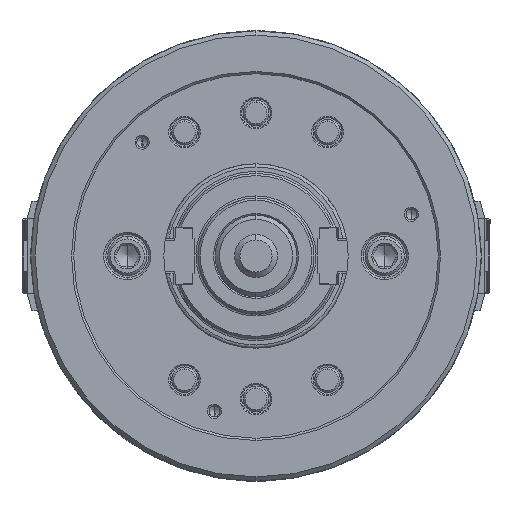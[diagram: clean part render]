
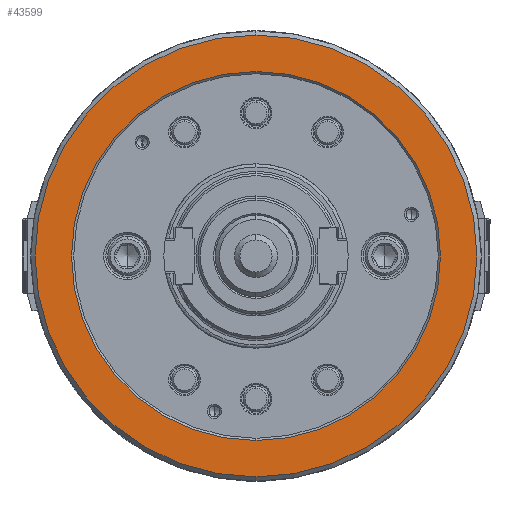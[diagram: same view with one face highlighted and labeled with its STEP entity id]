
A CAD part, left-side view. The second image highlights one B-rep face of the part: STEP entity #43599.
In plain terms, the highlighted planar face has unit normal (-1, 0, 0).
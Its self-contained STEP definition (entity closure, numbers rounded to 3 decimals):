
#551 = DIRECTION ( 'NONE',  ( 1., 0., 0. ) ) ;
#2469 = CARTESIAN_POINT ( 'NONE',  ( -85., 0., 0. ) ) ;
#3327 = CARTESIAN_POINT ( 'NONE',  ( -85., -103., 0. ) ) ;
#3544 = DIRECTION ( 'NONE',  ( 1., 0., 0. ) ) ;
#3784 = FACE_BOUND ( 'NONE', #7798, .T. ) ;
#3997 = DIRECTION ( 'NONE',  ( 0., 0., -1. ) ) ;
#7619 = AXIS2_PLACEMENT_3D ( 'NONE', #3327, #48761, #62284 ) ;
#7798 = EDGE_LOOP ( 'NONE', ( #58613, #61413 ) ) ;
#8707 = CARTESIAN_POINT ( 'NONE',  ( -85., 0., 86. ) ) ;
#11997 = CARTESIAN_POINT ( 'NONE',  ( -85., 0., -86. ) ) ;
#13137 = ORIENTED_EDGE ( 'NONE', *, *, #28904, .F. ) ;
#17274 = AXIS2_PLACEMENT_3D ( 'NONE', #53716, #551, #52775 ) ;
#20754 = CIRCLE ( 'NONE', #53253, 103. ) ;
#21277 = CARTESIAN_POINT ( 'NONE',  ( -85., 0., 103. ) ) ;
#23811 = AXIS2_PLACEMENT_3D ( 'NONE', #2469, #62859, #47403 ) ;
#28904 = EDGE_CURVE ( 'NONE', #91977, #85137, #68573, .T. ) ;
#30096 = AXIS2_PLACEMENT_3D ( 'NONE', #62972, #69261, #3997 ) ;
#34341 = ORIENTED_EDGE ( 'NONE', *, *, #70034, .F. ) ;
#43599 = ADVANCED_FACE ( 'NONE', ( #70969, #3784 ), #63240, .F. ) ;
#47403 = DIRECTION ( 'NONE',  ( 0., 0., -1. ) ) ;
#48034 = DIRECTION ( 'NONE',  ( 0., 0., -1. ) ) ;
#48761 = DIRECTION ( 'NONE',  ( 1., 0., 0. ) ) ;
#52775 = DIRECTION ( 'NONE',  ( 0., 0., -1. ) ) ;
#53253 = AXIS2_PLACEMENT_3D ( 'NONE', #91999, #3544, #48034 ) ;
#53716 = CARTESIAN_POINT ( 'NONE',  ( -85., 0., 0. ) ) ;
#58515 = EDGE_CURVE ( 'NONE', #93943, #64339, #88702, .T. ) ;
#58613 = ORIENTED_EDGE ( 'NONE', *, *, #58515, .T. ) ;
#61413 = ORIENTED_EDGE ( 'NONE', *, *, #84185, .T. ) ;
#61890 = EDGE_LOOP ( 'NONE', ( #13137, #34341 ) ) ;
#62284 = DIRECTION ( 'NONE',  ( 0., 0., -1. ) ) ;
#62859 = DIRECTION ( 'NONE',  ( 1., 0., 0. ) ) ;
#62972 = CARTESIAN_POINT ( 'NONE',  ( -85., 0., 0. ) ) ;
#63240 = PLANE ( 'NONE',  #7619 ) ;
#64339 = VERTEX_POINT ( 'NONE', #11997 ) ;
#68210 = CIRCLE ( 'NONE', #17274, 86. ) ;
#68573 = CIRCLE ( 'NONE', #23811, 103. ) ;
#69261 = DIRECTION ( 'NONE',  ( 1., 0., 0. ) ) ;
#70034 = EDGE_CURVE ( 'NONE', #85137, #91977, #20754, .T. ) ;
#70969 = FACE_OUTER_BOUND ( 'NONE', #61890, .T. ) ;
#84185 = EDGE_CURVE ( 'NONE', #64339, #93943, #68210, .T. ) ;
#85137 = VERTEX_POINT ( 'NONE', #21277 ) ;
#88702 = CIRCLE ( 'NONE', #30096, 86. ) ;
#91977 = VERTEX_POINT ( 'NONE', #93552 ) ;
#91999 = CARTESIAN_POINT ( 'NONE',  ( -85., 0., 0. ) ) ;
#93552 = CARTESIAN_POINT ( 'NONE',  ( -85., 0., -103. ) ) ;
#93943 = VERTEX_POINT ( 'NONE', #8707 ) ;
